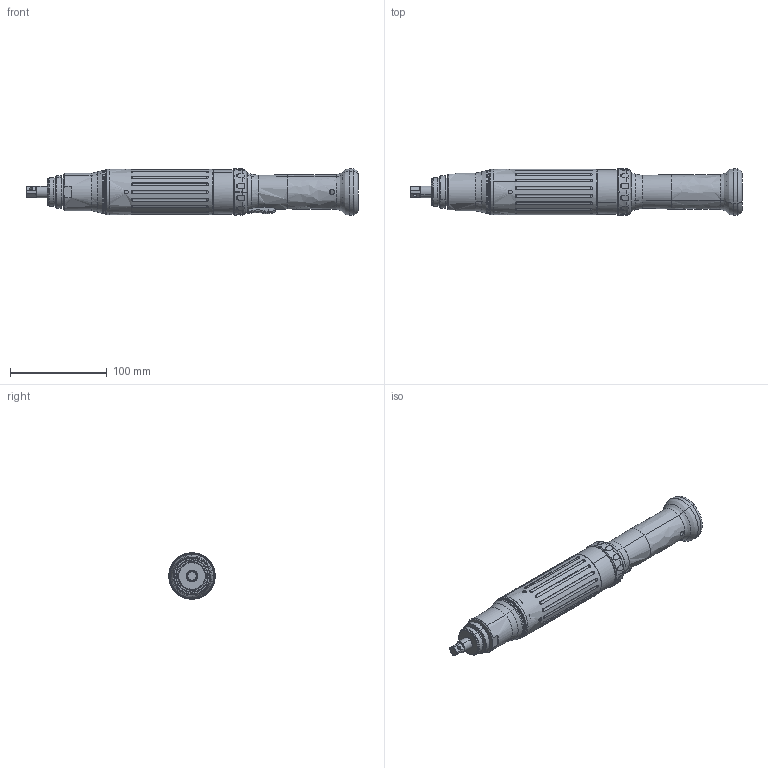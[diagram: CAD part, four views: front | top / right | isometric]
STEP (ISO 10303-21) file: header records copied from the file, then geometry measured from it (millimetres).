
FILE_DESCRIPTION(('STEP AP203'),'2;1');
FILE_NAME('EH2-R1020-S.stp','2009-03-18T08:44:59',(''),(''),'2008.1.107','THINKDESIGN','');
FILE_SCHEMA(('CONFIG_CONTROL_DESIGN'));
Bounding box: 344 x 48 x 48 mm (x, y, z)
Surface area: 81867.5 mm2 (no closed solid volume)
Topology: 0 solids, 0 shells, 964 faces, 4598 edges, 4486 vertices
Faces by surface type: bspline 725, plane 239
Entity records: 50629 total; most frequent: CARTESIAN_POINT 36051, COMPOSITE_CURVE_SEGMENT 4394, DIRECTION 1807, B_SPLINE_CURVE_WITH_KNOTS 1695, VECTOR 1329, LINE 1329, TRIMMED_CURVE 1329, OUTER_BOUNDARY_CURVE 958
